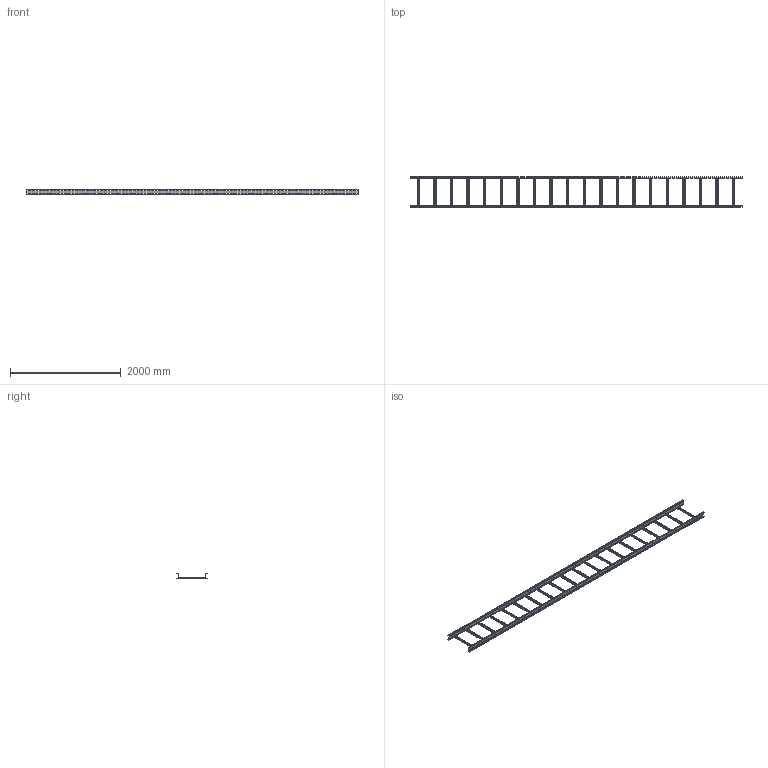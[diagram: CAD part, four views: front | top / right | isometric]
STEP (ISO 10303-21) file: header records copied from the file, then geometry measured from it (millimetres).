
FILE_DESCRIPTION(/* description */ ('','CAx-IF Rec.Pracs.---Representation and Presentation of Product Manufacturing Information (PMI)---4.0---2014-10-13'),/* implementation_level */ '2;1');
FILE_NAME(/* name */ 'Eurostrut_ECL100-500-6_Cable Ladder.step',/* time_stamp */ '2026-09-03T11:56:18+02:00',/* author */ (''),/* organization */ (''),/* preprocessor_version */ 'ST-DEVELOPER v20.1',/* originating_system */ 'Autodesk Revit 2027 27.2.0.39',/* authorisation */ '');
FILE_SCHEMA (('AP242_MANAGED_MODEL_BASED_3D_ENGINEERING_MIM_LF { 1 0 10303 442 2 1 4 }'));
Products named in the file (4): TopLevelAssembly; 60mm; 60mm_1; Cable Ladder Rung_Slotted
Assembly tree (22 placements, depth 2):
  TopLevelAssembly
    60mm
    60mm_1
    Cable Ladder Rung_Slotted  x20
Bounding box: 6000 x 546 x 100 mm (x, y, z)
Volume: 4924772.9 mm3; surface area: 5483622.2 mm2
Topology: 22 solids, 22 shells, 4340 faces, 12888 edges, 8592 vertices
Faces by surface type: plane 3236, bspline 1000, cylinder 104
Entity records: 72908 total; most frequent: CARTESIAN_POINT 14126, ORIENTED_EDGE 12552, DIRECTION 10580, EDGE_CURVE 6276, LINE 6120, VECTOR 6120, VERTEX_POINT 4184, EDGE_LOOP 3108
